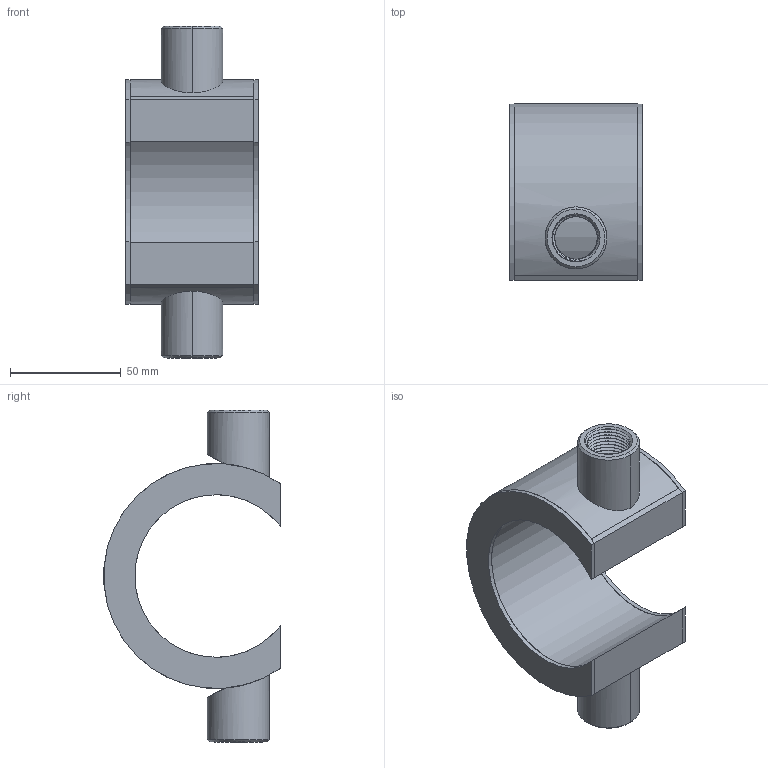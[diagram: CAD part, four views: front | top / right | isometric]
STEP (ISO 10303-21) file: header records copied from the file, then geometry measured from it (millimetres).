
FILE_DESCRIPTION((''),'2;1');
FILE_NAME('79501063400_ASM','2020-01-08T16:24:56',('alfio.taboni'),('CDM Tecnoconsulting'),'CREO PARAMETRIC BY PTC INC, 2019344','CREO PARAMETRIC BY PTC INC, 2019344','');
FILE_SCHEMA(('CONFIG_CONTROL_DESIGN','SHAPE_APPEARANCE_LAYERS_GROUPS'));
Length unit declared in the file: millimetre
Products named in the file (6): 79510063403; 79510063401; 79510063400; 79510063402; 74402862200; 79501063400_ASM
Assembly tree (8 placements, depth 2):
  79501063400_ASM
    79510063403
    79510063401  x2
    79510063400
    79510063402  x2
    74402862200  x2
Bounding box: 60 x 79.8 x 150 mm (x, y, z)
Volume: 73205.5 mm3; surface area: 73419.1 mm2
Topology: 8 solids, 8 shells, 286 faces, 752 edges, 496 vertices
Faces by surface type: plane 134, cylinder 64, extrusion 56, bspline 24, cone 8
Entity records: 12781 total; most frequent: CARTESIAN_POINT 5431, ORIENTED_EDGE 1220, DIRECTION 837, PRESENTATION_STYLE_ASSIGNMENT 616, STYLED_ITEM 615, CURVE_STYLE 610, EDGE_CURVE 610, VERTEX_POINT 404
